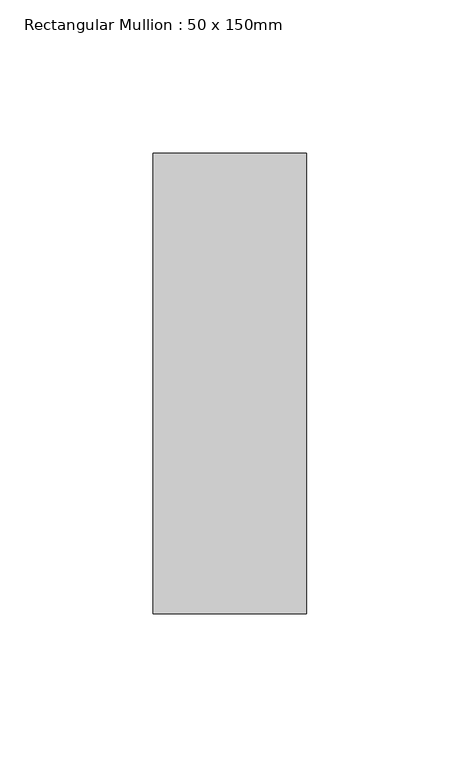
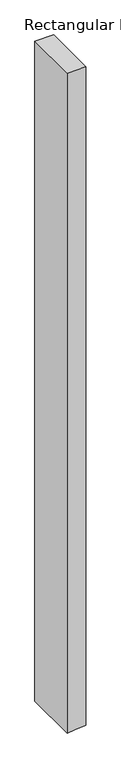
"""IFC4 building model written with IfcOpenShell, lengths in millimetres: member geometry, Rectangular Mullion : 50 x 150mm."""

from ifc_helpers import new_model, si_unit, frame, origin, place, context, project, spatial, polyline, outline, extrude, source, transform, mapped, element, save


def rectangular_mullion_50_x_150mm_5ceecb4b(model_context):
    return source(origin(), model_context, "Body", "SweptSolid", [
        extrude(outline(polyline([(0.0, 25.0), (0.0, -25.0), (-1871.5023281, -25.0), (-1869.491561, -5.0022633), (-1866.4748414, 25.0), (0.0, 25.0)])), frame((0.0, -75.0, 0.0), z_axis=(0.0, 1.0, 0.0), x_axis=(0.0, 0.0, 1.0)), (0.0, 0.0, 1.0), 150.0),
    ])


if __name__ == "__main__":
    model = new_model("IFC4")
    model_context = context("Model", 3, world=origin())
    ifc_project = project(units=[si_unit("LENGTHUNIT", "METRE", prefix="MILLI")], contexts=[model_context])
    site = spatial("IfcSite", under=ifc_project)
    building = spatial("IfcBuilding", under=site)
    placement = place(None, origin())
    rectangular_mullion_50_x_150mm_shape = rectangular_mullion_50_x_150mm_5ceecb4b(model_context)
    element("IfcMember", 1, ObjectType="Rectangular Mullion : 50 x 150mm", at=placement, inside=building, context=model_context, shape_type="MappedRepresentation", body=[
        mapped(rectangular_mullion_50_x_150mm_shape, transform((0.0, 0.0, 0.0), x_axis=(1.0, 0.0, 0.0), y_axis=(0.0, 1.0, 0.0), z_axis=(0.0, 0.0, 1.0))),
    ])
    save(model, "model.ifc")
